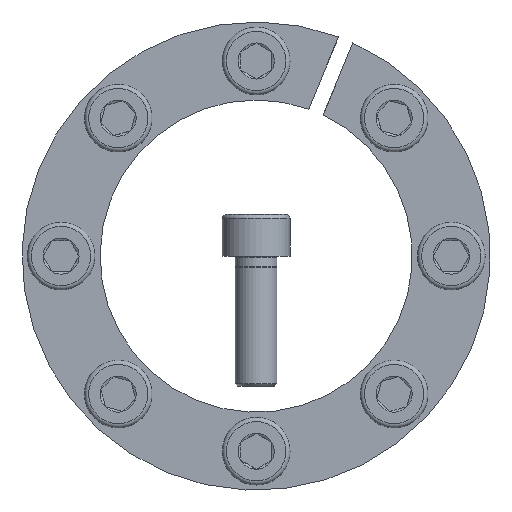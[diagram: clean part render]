
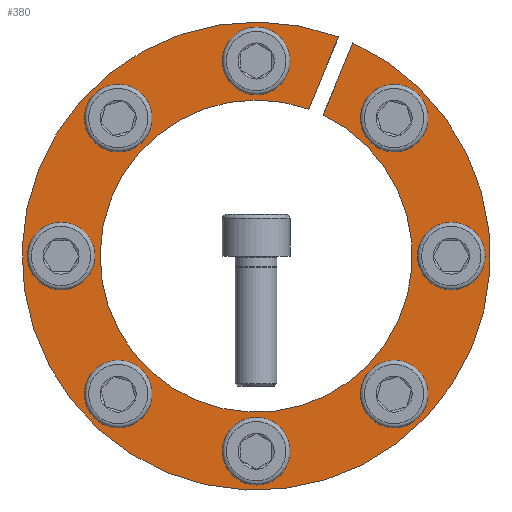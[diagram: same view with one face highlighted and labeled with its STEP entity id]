
A CAD part, front view. The second image highlights one B-rep face of the part: STEP entity #380.
In plain terms, the highlighted planar face has unit normal (0, -1, 0).
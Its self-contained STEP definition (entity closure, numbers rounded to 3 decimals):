
#380 = ADVANCED_FACE( '', ( #583, #584, #585, #586, #587, #588, #589, #590, #591 ), #592, .F. );
#583 = FACE_BOUND( '', #747, .T. );
#584 = FACE_BOUND( '', #748, .T. );
#585 = FACE_BOUND( '', #749, .T. );
#586 = FACE_BOUND( '', #750, .T. );
#587 = FACE_OUTER_BOUND( '', #751, .T. );
#588 = FACE_BOUND( '', #752, .T. );
#589 = FACE_BOUND( '', #753, .T. );
#590 = FACE_BOUND( '', #754, .T. );
#591 = FACE_BOUND( '', #755, .T. );
#592 = PLANE( '', #756 );
#747 = EDGE_LOOP( '', ( #960 ) );
#748 = EDGE_LOOP( '', ( #961 ) );
#749 = EDGE_LOOP( '', ( #962 ) );
#750 = EDGE_LOOP( '', ( #963 ) );
#751 = EDGE_LOOP( '', ( #964, #965, #966, #967 ) );
#752 = EDGE_LOOP( '', ( #968 ) );
#753 = EDGE_LOOP( '', ( #969 ) );
#754 = EDGE_LOOP( '', ( #970 ) );
#755 = EDGE_LOOP( '', ( #971 ) );
#756 = AXIS2_PLACEMENT_3D( '', #972, #973, #974 );
#960 = ORIENTED_EDGE( '', *, *, #1294, .T. );
#961 = ORIENTED_EDGE( '', *, *, #1295, .T. );
#962 = ORIENTED_EDGE( '', *, *, #1296, .T. );
#963 = ORIENTED_EDGE( '', *, *, #1297, .T. );
#964 = ORIENTED_EDGE( '', *, *, #1292, .F. );
#965 = ORIENTED_EDGE( '', *, *, #1288, .F. );
#966 = ORIENTED_EDGE( '', *, *, #1298, .T. );
#967 = ORIENTED_EDGE( '', *, *, #1299, .F. );
#968 = ORIENTED_EDGE( '', *, *, #1300, .T. );
#969 = ORIENTED_EDGE( '', *, *, #1301, .T. );
#970 = ORIENTED_EDGE( '', *, *, #1302, .T. );
#971 = ORIENTED_EDGE( '', *, *, #1303, .T. );
#972 = CARTESIAN_POINT( '', ( 0., 0., 45. ) );
#973 = DIRECTION( '', ( 0., 1., 0. ) );
#974 = DIRECTION( '', ( 0., 0., 1. ) );
#1288 = EDGE_CURVE( '', #1423, #1425, #1426, .T. );
#1292 = EDGE_CURVE( '', #1425, #1432, #1433, .T. );
#1294 = EDGE_CURVE( '', #1435, #1435, #1436, .T. );
#1295 = EDGE_CURVE( '', #1437, #1437, #1438, .T. );
#1296 = EDGE_CURVE( '', #1439, #1439, #1440, .T. );
#1297 = EDGE_CURVE( '', #1441, #1441, #1442, .T. );
#1298 = EDGE_CURVE( '', #1423, #1443, #1444, .T. );
#1299 = EDGE_CURVE( '', #1432, #1443, #1445, .T. );
#1300 = EDGE_CURVE( '', #1446, #1446, #1447, .T. );
#1301 = EDGE_CURVE( '', #1448, #1448, #1449, .T. );
#1302 = EDGE_CURVE( '', #1450, #1450, #1451, .T. );
#1303 = EDGE_CURVE( '', #1452, #1452, #1453, .T. );
#1423 = VERTEX_POINT( '', #1551 );
#1425 = VERTEX_POINT( '', #1554 );
#1426 = LINE( '', #1555, #1556 );
#1432 = VERTEX_POINT( '', #1564 );
#1433 = CIRCLE( '', #1565, 30. );
#1435 = VERTEX_POINT( '', #1568 );
#1436 = CIRCLE( '', #1569, 4. );
#1437 = VERTEX_POINT( '', #1570 );
#1438 = CIRCLE( '', #1571, 4. );
#1439 = VERTEX_POINT( '', #1572 );
#1440 = CIRCLE( '', #1573, 4. );
#1441 = VERTEX_POINT( '', #1574 );
#1442 = CIRCLE( '', #1575, 4. );
#1443 = VERTEX_POINT( '', #1576 );
#1444 = CIRCLE( '', #1577, 45. );
#1445 = LINE( '', #1578, #1579 );
#1446 = VERTEX_POINT( '', #1580 );
#1447 = CIRCLE( '', #1581, 4. );
#1448 = VERTEX_POINT( '', #1582 );
#1449 = CIRCLE( '', #1583, 4. );
#1450 = VERTEX_POINT( '', #1584 );
#1451 = CIRCLE( '', #1585, 4. );
#1452 = VERTEX_POINT( '', #1586 );
#1453 = CIRCLE( '', #1587, 4. );
#1551 = CARTESIAN_POINT( '', ( 15.825, 0., 42.126 ) );
#1554 = CARTESIAN_POINT( '', ( 10.08, 0., 28.256 ) );
#1555 = CARTESIAN_POINT( '', ( 15.835, 0., 42.149 ) );
#1556 = VECTOR( '', #1674, 1000. );
#1564 = CARTESIAN_POINT( '', ( 12.852, 0., 27.108 ) );
#1565 = AXIS2_PLACEMENT_3D( '', #1680, #1681, #1682 );
#1568 = CARTESIAN_POINT( '', ( -37.5, 0., 4. ) );
#1569 = AXIS2_PLACEMENT_3D( '', #1684, #1685, #1686 );
#1570 = CARTESIAN_POINT( '', ( -4., 0., -37.5 ) );
#1571 = AXIS2_PLACEMENT_3D( '', #1687, #1688, #1689 );
#1572 = CARTESIAN_POINT( '', ( 37.5, 0., -4. ) );
#1573 = AXIS2_PLACEMENT_3D( '', #1690, #1691, #1692 );
#1574 = CARTESIAN_POINT( '', ( 4., 0., 37.5 ) );
#1575 = AXIS2_PLACEMENT_3D( '', #1693, #1694, #1695 );
#1576 = CARTESIAN_POINT( '', ( 18.597, 0., 40.977 ) );
#1577 = AXIS2_PLACEMENT_3D( '', #1696, #1697, #1698 );
#1578 = CARTESIAN_POINT( '', ( 12.852, 0., 27.108 ) );
#1579 = VECTOR( '', #1699, 1000. );
#1580 = CARTESIAN_POINT( '', ( 29.345, 0., 23.688 ) );
#1581 = AXIS2_PLACEMENT_3D( '', #1700, #1701, #1702 );
#1582 = CARTESIAN_POINT( '', ( 23.688, 0., -29.345 ) );
#1583 = AXIS2_PLACEMENT_3D( '', #1703, #1704, #1705 );
#1584 = CARTESIAN_POINT( '', ( -29.345, 0., -23.688 ) );
#1585 = AXIS2_PLACEMENT_3D( '', #1706, #1707, #1708 );
#1586 = CARTESIAN_POINT( '', ( -23.688, 0., 29.345 ) );
#1587 = AXIS2_PLACEMENT_3D( '', #1709, #1710, #1711 );
#1674 = DIRECTION( '', ( -0.383, 0., -0.924 ) );
#1680 = CARTESIAN_POINT( '', ( 0., 0., 0. ) );
#1681 = DIRECTION( '', ( 0., -1., 0. ) );
#1682 = DIRECTION( '', ( 0., 0., -1. ) );
#1684 = CARTESIAN_POINT( '', ( -37.5, 0., 0. ) );
#1685 = DIRECTION( '', ( 0., 1., 0. ) );
#1686 = DIRECTION( '', ( 0., 0., 1. ) );
#1687 = CARTESIAN_POINT( '', ( 0., 0., -37.5 ) );
#1688 = DIRECTION( '', ( 0., 1., 0. ) );
#1689 = DIRECTION( '', ( -1., 0., 0. ) );
#1690 = CARTESIAN_POINT( '', ( 37.5, 0., 0. ) );
#1691 = DIRECTION( '', ( 0., 1., 0. ) );
#1692 = DIRECTION( '', ( 0., 0., -1. ) );
#1693 = CARTESIAN_POINT( '', ( 0., 0., 37.5 ) );
#1694 = DIRECTION( '', ( 0., 1., 0. ) );
#1695 = DIRECTION( '', ( 1., 0., 0. ) );
#1696 = CARTESIAN_POINT( '', ( 0., 0., 0. ) );
#1697 = DIRECTION( '', ( 0., -1., 0. ) );
#1698 = DIRECTION( '', ( 0., 0., -1. ) );
#1699 = DIRECTION( '', ( 0.383, 0., 0.924 ) );
#1700 = CARTESIAN_POINT( '', ( 26.517, 0., 26.517 ) );
#1701 = DIRECTION( '', ( 0., 1., 0. ) );
#1702 = DIRECTION( '', ( 0.707, 0., -0.707 ) );
#1703 = CARTESIAN_POINT( '', ( 26.517, 0., -26.517 ) );
#1704 = DIRECTION( '', ( 0., 1., 0. ) );
#1705 = DIRECTION( '', ( -0.707, 0., -0.707 ) );
#1706 = CARTESIAN_POINT( '', ( -26.517, 0., -26.517 ) );
#1707 = DIRECTION( '', ( 0., 1., 0. ) );
#1708 = DIRECTION( '', ( -0.707, 0., 0.707 ) );
#1709 = CARTESIAN_POINT( '', ( -26.517, 0., 26.517 ) );
#1710 = DIRECTION( '', ( 0., 1., 0. ) );
#1711 = DIRECTION( '', ( 0.707, 0., 0.707 ) );
